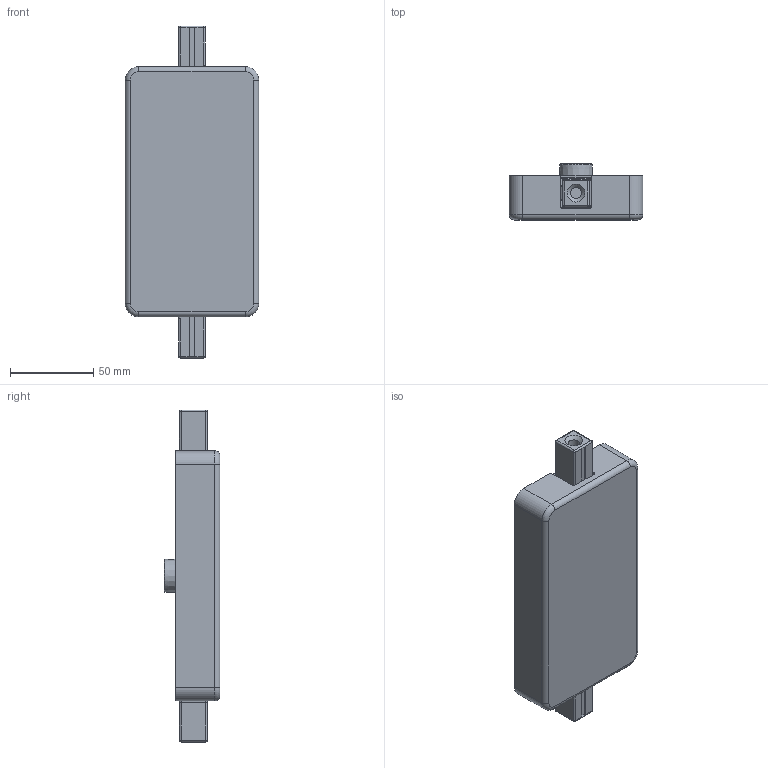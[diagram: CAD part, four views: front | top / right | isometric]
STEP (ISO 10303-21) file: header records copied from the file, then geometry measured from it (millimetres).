
FILE_DESCRIPTION((''),'2;1');
FILE_NAME('C:\Users\G1006U\Desktop\問い合わせ\HP用３Ｄデータ\EL-134 R.stp','2020-03-27T18:56:46',('G1006U'),(''),'Autodesk Inventor 2013','Autodesk Inventor 2013','');
FILE_SCHEMA(('AUTOMOTIVE_DESIGN { 1 0 10303 214 1 1 1 1 }'));
Length unit declared in the file: millimetre
Products named in the file (8): EL-133 R; Case; Lid; OuterBush; Hub; Clutch; Slidebolt; Cover 穴なし
Assembly tree (8 placements, depth 2):
  EL-133 R
    Case
    Lid
    OuterBush
    Hub
    Clutch
    Slidebolt  x2
    Cover 穴なし
Bounding box: 80 x 33.5 x 199.09 mm (x, y, z)
Volume: 153276.5 mm3; surface area: 136556.9 mm2
Topology: 8 solids, 8 shells, 1468 faces, 3646 edges, 2104 vertices
Faces by surface type: plane 612, cylinder 506, torus 151, sphere 104, bspline 71, cone 24
Full cylindrical faces by diameter (mm): 3 x2, 4.5 x4, 5.4 x2, 6.1 x4, 6.75 x2, 7.1 x6, 7.6 x2, 9.8 x4, 20.1 x1, 24 x1, 24.1 x1, 26 x1, 26.2 x1, 28.6 x1, 30 x2
Entity records: 35095 total; most frequent: CARTESIAN_POINT 7762, DIRECTION 5759, ORIENTED_EDGE 5520, EDGE_CURVE 2760, AXIS2_PLACEMENT_3D 2040, VERTEX_POINT 1719, VECTOR 1679, LINE 1679
